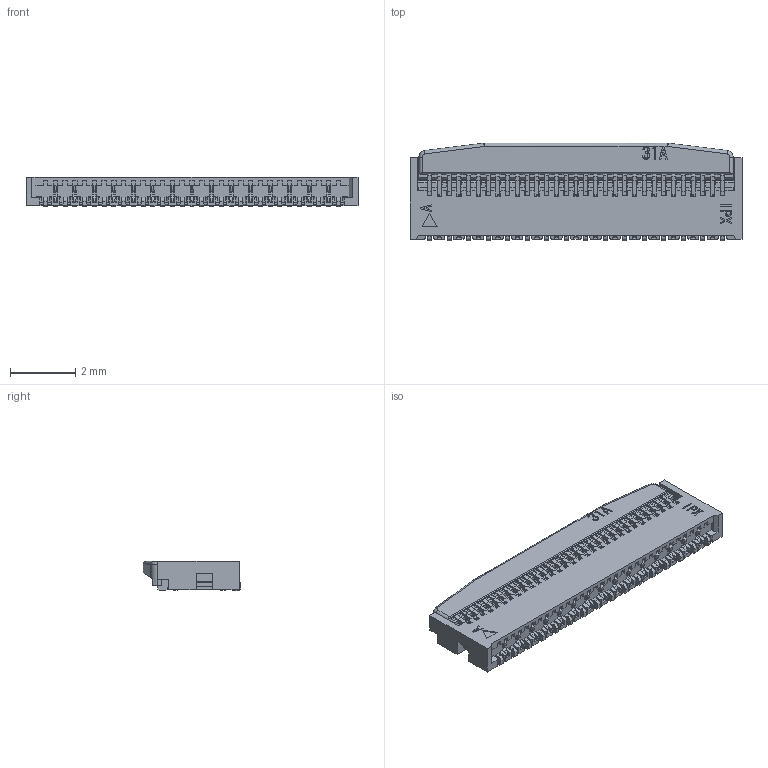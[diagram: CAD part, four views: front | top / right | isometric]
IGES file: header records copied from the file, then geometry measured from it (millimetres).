
Start section: SolidWorks IGES file using analytic representation for surfaces
Global section: file name: Q:\個人専用\SHIMADA\MFX3-BFN\3D-DATA\31p\iges\20527-031Exxx ACT CLOSE IGES R2.IGS; native system: SolidWorks 2010; preprocessor: SolidWorks 2010; author: kaihatsu-3dcad-7; date: 110627.221916; units: millimetre
Bounding box: 10.2 x 3 x 0.9 mm (x, y, z)
Surface area: 136 mm2 (no closed solid volume)
Topology: 0 solids, 0 shells, 2627 faces, 17249 edges, 17247 vertices
Faces by surface type: bspline 2183, revolution 444
